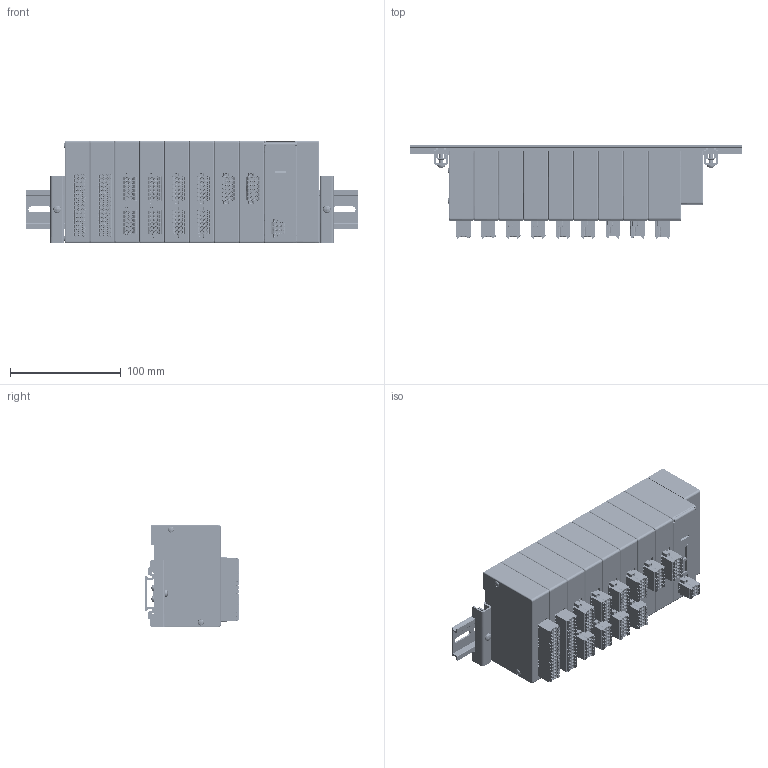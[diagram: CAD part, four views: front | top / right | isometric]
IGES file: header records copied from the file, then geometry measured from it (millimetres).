
Start section: ------------------------------------------------------------------------
Bounding box: 300 x 84.4 x 93 mm (x, y, z)
Volume: 1341063.7 mm3; surface area: 279457.3 mm2
Topology: 12 solids, 12 shells, 12559 faces, 32865 edges, 21189 vertices
Faces by surface type: bspline 12559
